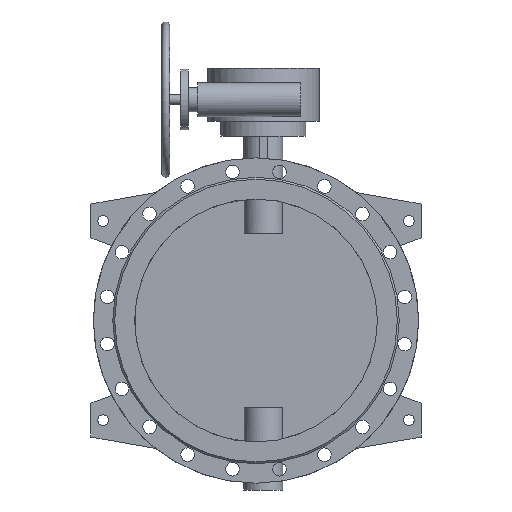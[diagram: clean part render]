
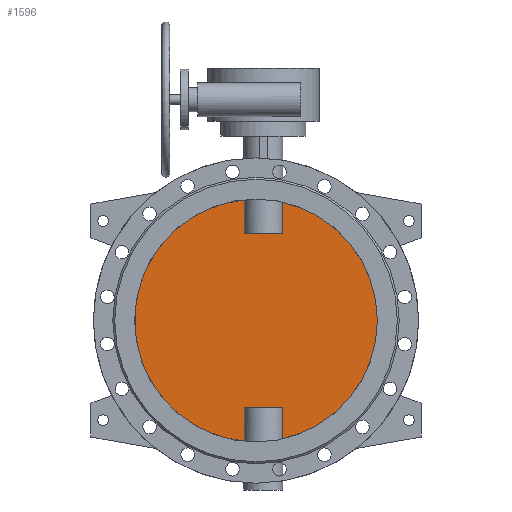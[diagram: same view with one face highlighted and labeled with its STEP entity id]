
A CAD part, front view. The second image highlights one B-rep face of the part: STEP entity #1596.
In plain terms, the highlighted planar face has unit normal (0, -1, 0).
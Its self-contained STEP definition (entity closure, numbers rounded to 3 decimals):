
#1596=ADVANCED_FACE('',(#3342),#3344,.F.);
#3342=FACE_BOUND('',#3343,.T.);
#3343=EDGE_LOOP('',(#4236,#4237,#4238,#4239,#4240,#4241,#4242,#4243));
#3344=PLANE('',#3345);
#3345=AXIS2_PLACEMENT_3D('',#3346,#3347,#3348);
#3346=CARTESIAN_POINT('',(0.,-5.,0.));
#3347=DIRECTION('',(0.,1.,0.));
#3348=DIRECTION('',(1.,0.,0.));
#4236=ORIENTED_EDGE('',*,*,#4693,.T.);
#4237=ORIENTED_EDGE('',*,*,#4699,.T.);
#4238=ORIENTED_EDGE('',*,*,#4700,.T.);
#4239=ORIENTED_EDGE('',*,*,#4701,.T.);
#4240=ORIENTED_EDGE('',*,*,#4695,.T.);
#4241=ORIENTED_EDGE('',*,*,#4702,.T.);
#4242=ORIENTED_EDGE('',*,*,#4703,.T.);
#4243=ORIENTED_EDGE('',*,*,#4704,.T.);
#4693=EDGE_CURVE('',#5410,#5411,#5412,.F.);
#4695=EDGE_CURVE('',#5415,#5413,#5416,.F.);
#4699=EDGE_CURVE('',#5411,#5422,#5423,.T.);
#4700=EDGE_CURVE('',#5422,#5424,#5425,.F.);
#4701=EDGE_CURVE('',#5424,#5415,#5426,.F.);
#4702=EDGE_CURVE('',#5413,#5427,#5428,.F.);
#4703=EDGE_CURVE('',#5427,#5429,#5430,.F.);
#4704=EDGE_CURVE('',#5429,#5410,#5431,.T.);
#5410=VERTEX_POINT('',#7997);
#5411=VERTEX_POINT('',#7998);
#5412=CIRCLE('',#7999,250.);
#5413=VERTEX_POINT('',#8003);
#5415=VERTEX_POINT('',#8093);
#5416=CIRCLE('',#8094,250.);
#5422=VERTEX_POINT('',#8213);
#5423=LINE('',#8214,#8215);
#5424=VERTEX_POINT('',#8217);
#5425=LINE('',#8218,#8219);
#5426=LINE('',#8221,#8222);
#5427=VERTEX_POINT('',#8224);
#5428=LINE('',#8225,#8226);
#5429=VERTEX_POINT('',#8228);
#5430=LINE('',#8229,#8230);
#5431=LINE('',#8232,#8233);
#7997=CARTESIAN_POINT('',(54.686,-5.,-243.946));
#7998=CARTESIAN_POINT('',(54.686,-5.,243.946));
#7999=AXIS2_PLACEMENT_3D('',#8000,#8001,#8002);
#8000=CARTESIAN_POINT('',(0.,-5.,0.));
#8001=DIRECTION('',(0.,1.,0.));
#8002=DIRECTION('',(0.219,0.,0.976));
#8003=CARTESIAN_POINT('',(-24.686,-5.,-248.778));
#8093=CARTESIAN_POINT('',(-24.686,-5.,248.778));
#8094=AXIS2_PLACEMENT_3D('',#8095,#8096,#8097);
#8095=CARTESIAN_POINT('',(0.,-5.,0.));
#8096=DIRECTION('',(0.,1.,0.));
#8097=DIRECTION('',(-0.099,0.,-0.995));
#8213=CARTESIAN_POINT('',(54.686,-5.,180.));
#8214=CARTESIAN_POINT('',(54.686,-5.,243.946));
#8215=VECTOR('',#8216,1.);
#8216=DIRECTION('',(0.,0.,-1.));
#8217=CARTESIAN_POINT('',(-24.686,-5.,180.));
#8218=CARTESIAN_POINT('',(-24.686,-5.,180.));
#8219=VECTOR('',#8220,1.);
#8220=DIRECTION('',(1.,0.,0.));
#8221=CARTESIAN_POINT('',(-24.686,-5.,248.778));
#8222=VECTOR('',#8223,1.);
#8223=DIRECTION('',(0.,0.,-1.));
#8224=CARTESIAN_POINT('',(-24.686,-5.,-180.));
#8225=CARTESIAN_POINT('',(-24.686,-5.,-180.));
#8226=VECTOR('',#8227,1.);
#8227=DIRECTION('',(0.,0.,-1.));
#8228=CARTESIAN_POINT('',(54.686,-5.,-180.));
#8229=CARTESIAN_POINT('',(54.686,-5.,-180.));
#8230=VECTOR('',#8231,1.);
#8231=DIRECTION('',(-1.,0.,0.));
#8232=CARTESIAN_POINT('',(54.686,-5.,-180.));
#8233=VECTOR('',#8234,1.);
#8234=DIRECTION('',(0.,0.,-1.));
